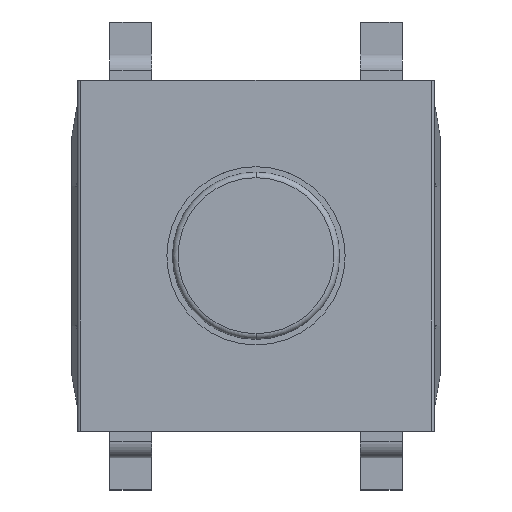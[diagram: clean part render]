
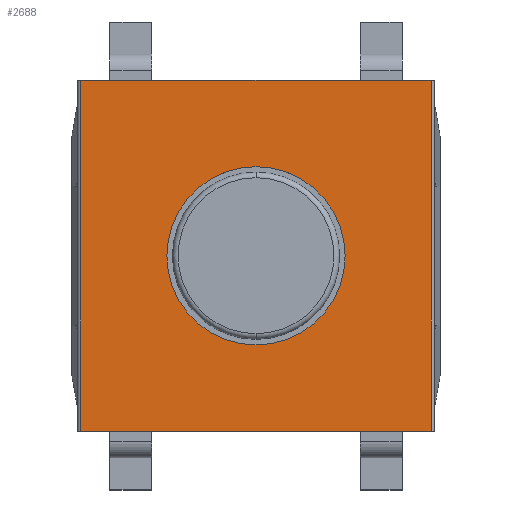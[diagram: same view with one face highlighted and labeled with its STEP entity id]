
A CAD part, top view. The second image highlights one B-rep face of the part: STEP entity #2688.
In plain terms, the highlighted planar face has unit normal (0, 0, 1).
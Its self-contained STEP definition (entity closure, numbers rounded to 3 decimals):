
#895=DIRECTION('',(1.,0.,0.));
#896=VECTOR('',#895,6.3);
#897=CARTESIAN_POINT('',(-3.15,-3.15,2.));
#898=LINE('',#897,#896);
#937=CARTESIAN_POINT('',(0.,0.,2.));
#938=DIRECTION('',(0.,0.,-1.));
#939=DIRECTION('',(0.,-1.,0.));
#940=AXIS2_PLACEMENT_3D('',#937,#938,#939);
#942=CARTESIAN_POINT('',(0.,0.,2.));
#943=DIRECTION('',(0.,0.,-1.));
#944=DIRECTION('',(0.,1.,0.));
#945=AXIS2_PLACEMENT_3D('',#942,#943,#944);
#947=DIRECTION('',(0.,-1.,0.));
#948=VECTOR('',#947,6.3);
#949=CARTESIAN_POINT('',(-3.15,3.15,2.));
#950=LINE('',#949,#948);
#951=DIRECTION('',(-1.,0.,0.));
#952=VECTOR('',#951,6.3);
#953=CARTESIAN_POINT('',(3.15,3.15,2.));
#954=LINE('',#953,#952);
#955=DIRECTION('',(0.,1.,0.));
#956=VECTOR('',#955,6.3);
#957=CARTESIAN_POINT('',(3.15,-3.15,2.));
#958=LINE('',#957,#956);
#1033=CARTESIAN_POINT('',(0.,-1.6,2.));
#1034=CARTESIAN_POINT('',(0.,1.6,2.));
#1035=VERTEX_POINT('',#1033);
#1036=VERTEX_POINT('',#1034);
#1141=CARTESIAN_POINT('',(3.15,3.15,2.));
#1143=VERTEX_POINT('',#1141);
#1147=CARTESIAN_POINT('',(3.15,-3.15,2.));
#1148=VERTEX_POINT('',#1147);
#1149=CARTESIAN_POINT('',(-3.15,3.15,2.));
#1150=VERTEX_POINT('',#1149);
#1151=CARTESIAN_POINT('',(-3.15,-3.15,2.));
#1153=VERTEX_POINT('',#1151);
#2670=CARTESIAN_POINT('',(0.,0.,2.));
#2671=DIRECTION('',(0.,0.,1.));
#2672=DIRECTION('',(0.,-1.,0.));
#2673=AXIS2_PLACEMENT_3D('',#2670,#2671,#2672);
#2674=PLANE('',#2673);
#2675=ORIENTED_EDGE('',*,*,#2655,.F.);
#2677=ORIENTED_EDGE('',*,*,#2676,.F.);
#2678=ORIENTED_EDGE('',*,*,#2378,.F.);
#2679=ORIENTED_EDGE('',*,*,#2405,.F.);
#2680=EDGE_LOOP('',(#2675,#2677,#2678,#2679));
#2681=FACE_OUTER_BOUND('',#2680,.F.);
#2683=ORIENTED_EDGE('',*,*,#2682,.F.);
#2685=ORIENTED_EDGE('',*,*,#2684,.F.);
#2686=EDGE_LOOP('',(#2683,#2685));
#2687=FACE_BOUND('',#2686,.F.);
#2688=ADVANCED_FACE('',(#2681,#2687),#2674,.T.);
#941=CIRCLE('',#940,1.6);
#946=CIRCLE('',#945,1.6);
#2378=EDGE_CURVE('',#1143,#1150,#954,.T.);
#2405=EDGE_CURVE('',#1148,#1143,#958,.T.);
#2655=EDGE_CURVE('',#1153,#1148,#898,.T.);
#2676=EDGE_CURVE('',#1150,#1153,#950,.T.);
#2682=EDGE_CURVE('',#1035,#1036,#941,.T.);
#2684=EDGE_CURVE('',#1036,#1035,#946,.T.);
